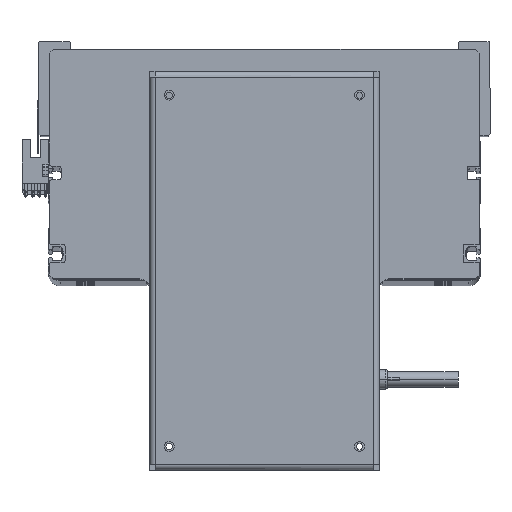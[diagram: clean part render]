
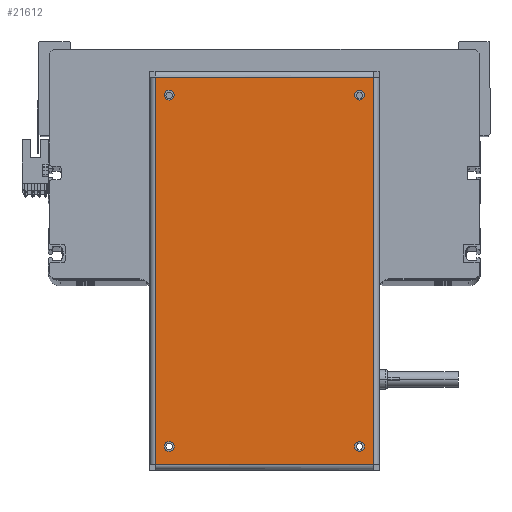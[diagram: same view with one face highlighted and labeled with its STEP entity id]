
A CAD part, top view. The second image highlights one B-rep face of the part: STEP entity #21612.
In plain terms, the highlighted planar face has unit normal (0, 0, 1).
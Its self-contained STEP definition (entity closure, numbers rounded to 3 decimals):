
#178 = ORIENTED_EDGE ( 'NONE', *, *, #24498, .F. ) ;
#366 = AXIS2_PLACEMENT_3D ( 'NONE', #13775, #3461, #36583 ) ;
#470 = CARTESIAN_POINT ( 'NONE',  ( 89.55, -48.5, 0. ) ) ;
#637 = AXIS2_PLACEMENT_3D ( 'NONE', #30506, #37453, #40730 ) ;
#678 = DIRECTION ( 'NONE',  ( 0., 1., 0. ) ) ;
#940 = VECTOR ( 'NONE', #22242, 1000. ) ;
#1008 = AXIS2_PLACEMENT_3D ( 'NONE', #12474, #21757, #15451 ) ;
#1162 = FACE_BOUND ( 'NONE', #27606, .T. ) ;
#1852 = ORIENTED_EDGE ( 'NONE', *, *, #25514, .F. ) ;
#2124 = VERTEX_POINT ( 'NONE', #15851 ) ;
#3304 = CARTESIAN_POINT ( 'NONE',  ( 92.05, 48.5, 0. ) ) ;
#3461 = DIRECTION ( 'NONE',  ( 0., 0., 1. ) ) ;
#3502 = CARTESIAN_POINT ( 'NONE',  ( -98.65, 55.6, 0. ) ) ;
#4228 = FACE_BOUND ( 'NONE', #25804, .T. ) ;
#4273 = CARTESIAN_POINT ( 'NONE',  ( -92.05, 48.5, 0. ) ) ;
#4379 = VERTEX_POINT ( 'NONE', #11235 ) ;
#4634 = CARTESIAN_POINT ( 'NONE',  ( -89.55, -48.5, 0. ) ) ;
#6359 = CARTESIAN_POINT ( 'NONE',  ( -89.55, 48.5, 0. ) ) ;
#6823 = VERTEX_POINT ( 'NONE', #10047 ) ;
#6844 = EDGE_CURVE ( 'NONE', #16360, #10850, #11214, .T. ) ;
#7323 = AXIS2_PLACEMENT_3D ( 'NONE', #4634, #21374, #24643 ) ;
#7562 = ORIENTED_EDGE ( 'NONE', *, *, #28426, .T. ) ;
#8343 = CIRCLE ( 'NONE', #14142, 2.5 ) ;
#8656 = LINE ( 'NONE', #34752, #16800 ) ;
#8834 = AXIS2_PLACEMENT_3D ( 'NONE', #24844, #37908, #15134 ) ;
#10047 = CARTESIAN_POINT ( 'NONE',  ( -87.05, -48.5, 0. ) ) ;
#10850 = VERTEX_POINT ( 'NONE', #3304 ) ;
#11214 = CIRCLE ( 'NONE', #38218, 2.5 ) ;
#11235 = CARTESIAN_POINT ( 'NONE',  ( -87.05, 48.5, 0. ) ) ;
#11760 = EDGE_CURVE ( 'NONE', #21344, #4379, #13192, .T. ) ;
#11821 = FACE_OUTER_BOUND ( 'NONE', #30718, .T. ) ;
#12474 = CARTESIAN_POINT ( 'NONE',  ( 89.55, -48.5, 0. ) ) ;
#12987 = VECTOR ( 'NONE', #678, 1000. ) ;
#13192 = CIRCLE ( 'NONE', #34430, 2.5 ) ;
#13319 = FACE_BOUND ( 'NONE', #40489, .T. ) ;
#13775 = CARTESIAN_POINT ( 'NONE',  ( 89.55, 48.5, 0. ) ) ;
#13789 = VERTEX_POINT ( 'NONE', #41457 ) ;
#13972 = CARTESIAN_POINT ( 'NONE',  ( 98.65, -55.6, 0. ) ) ;
#14142 = AXIS2_PLACEMENT_3D ( 'NONE', #6359, #29097, #32511 ) ;
#14159 = EDGE_CURVE ( 'NONE', #13789, #32589, #31836, .T. ) ;
#14226 = ORIENTED_EDGE ( 'NONE', *, *, #6844, .F. ) ;
#15134 = DIRECTION ( 'NONE',  ( -1., 0., 0. ) ) ;
#15451 = DIRECTION ( 'NONE',  ( 1., 0., 0. ) ) ;
#15851 = CARTESIAN_POINT ( 'NONE',  ( 87.05, -48.5, 0. ) ) ;
#16360 = VERTEX_POINT ( 'NONE', #36240 ) ;
#16505 = ORIENTED_EDGE ( 'NONE', *, *, #36498, .T. ) ;
#16800 = VECTOR ( 'NONE', #31628, 1000. ) ;
#16976 = VECTOR ( 'NONE', #32499, 1000. ) ;
#17005 = CARTESIAN_POINT ( 'NONE',  ( 89.55, 48.5, 0. ) ) ;
#17706 = VERTEX_POINT ( 'NONE', #32177 ) ;
#18940 = FACE_BOUND ( 'NONE', #26974, .T. ) ;
#19035 = CIRCLE ( 'NONE', #7323, 2.5 ) ;
#19893 = CARTESIAN_POINT ( 'NONE',  ( 92.05, -48.5, 0. ) ) ;
#20578 = DIRECTION ( 'NONE',  ( 0., 0., 1. ) ) ;
#20679 = DIRECTION ( 'NONE',  ( 1., 0., 0. ) ) ;
#21344 = VERTEX_POINT ( 'NONE', #4273 ) ;
#21374 = DIRECTION ( 'NONE',  ( 0., 0., 1. ) ) ;
#21612 = ADVANCED_FACE ( 'NONE', ( #18940, #4228, #1162, #13319, #11821 ), #37782, .F. ) ;
#21757 = DIRECTION ( 'NONE',  ( 0., 0., 1. ) ) ;
#21852 = ORIENTED_EDGE ( 'NONE', *, *, #23967, .F. ) ;
#22242 = DIRECTION ( 'NONE',  ( -1., 0., 0. ) ) ;
#22366 = AXIS2_PLACEMENT_3D ( 'NONE', #470, #32476, #29192 ) ;
#22910 = EDGE_CURVE ( 'NONE', #23042, #2124, #40720, .T. ) ;
#23042 = VERTEX_POINT ( 'NONE', #19893 ) ;
#23571 = EDGE_CURVE ( 'NONE', #4379, #21344, #8343, .T. ) ;
#23967 = EDGE_CURVE ( 'NONE', #2124, #23042, #28588, .T. ) ;
#24019 = ORIENTED_EDGE ( 'NONE', *, *, #25997, .T. ) ;
#24498 = EDGE_CURVE ( 'NONE', #6823, #17706, #31613, .T. ) ;
#24577 = CARTESIAN_POINT ( 'NONE',  ( -98.65, 55.6, 0. ) ) ;
#24643 = DIRECTION ( 'NONE',  ( 1., 0., 0. ) ) ;
#24844 = CARTESIAN_POINT ( 'NONE',  ( 98.75, 58.5, 0. ) ) ;
#25358 = CARTESIAN_POINT ( 'NONE',  ( 98.75, 55.6, 0. ) ) ;
#25361 = ORIENTED_EDGE ( 'NONE', *, *, #22910, .F. ) ;
#25514 = EDGE_CURVE ( 'NONE', #10850, #16360, #25886, .T. ) ;
#25804 = EDGE_LOOP ( 'NONE', ( #35967, #34563 ) ) ;
#25886 = CIRCLE ( 'NONE', #366, 2.5 ) ;
#25997 = EDGE_CURVE ( 'NONE', #32589, #38177, #36061, .T. ) ;
#26786 = VERTEX_POINT ( 'NONE', #31240 ) ;
#26974 = EDGE_LOOP ( 'NONE', ( #178, #39051 ) ) ;
#27066 = DIRECTION ( 'NONE',  ( 0., 0., 1. ) ) ;
#27606 = EDGE_LOOP ( 'NONE', ( #25361, #21852 ) ) ;
#28426 = EDGE_CURVE ( 'NONE', #38177, #26786, #41949, .T. ) ;
#28588 = CIRCLE ( 'NONE', #22366, 2.5 ) ;
#28627 = EDGE_CURVE ( 'NONE', #17706, #6823, #19035, .T. ) ;
#29097 = DIRECTION ( 'NONE',  ( 0., 0., 1. ) ) ;
#29192 = DIRECTION ( 'NONE',  ( 1., 0., 0. ) ) ;
#30506 = CARTESIAN_POINT ( 'NONE',  ( -89.55, -48.5, 0. ) ) ;
#30718 = EDGE_LOOP ( 'NONE', ( #7562, #16505, #37717, #24019 ) ) ;
#31240 = CARTESIAN_POINT ( 'NONE',  ( -98.65, -55.6, 0. ) ) ;
#31613 = CIRCLE ( 'NONE', #637, 2.5 ) ;
#31628 = DIRECTION ( 'NONE',  ( 1., 0., 0. ) ) ;
#31836 = LINE ( 'NONE', #13972, #12987 ) ;
#32159 = CARTESIAN_POINT ( 'NONE',  ( 98.65, 55.6, 0. ) ) ;
#32177 = CARTESIAN_POINT ( 'NONE',  ( -92.05, -48.5, 0. ) ) ;
#32476 = DIRECTION ( 'NONE',  ( 0., 0., 1. ) ) ;
#32499 = DIRECTION ( 'NONE',  ( 0., -1., 0. ) ) ;
#32511 = DIRECTION ( 'NONE',  ( 1., 0., 0. ) ) ;
#32589 = VERTEX_POINT ( 'NONE', #32159 ) ;
#33244 = DIRECTION ( 'NONE',  ( 1., 0., 0. ) ) ;
#34430 = AXIS2_PLACEMENT_3D ( 'NONE', #40299, #27066, #20679 ) ;
#34563 = ORIENTED_EDGE ( 'NONE', *, *, #11760, .F. ) ;
#34752 = CARTESIAN_POINT ( 'NONE',  ( -98.75, -55.6, 0. ) ) ;
#35967 = ORIENTED_EDGE ( 'NONE', *, *, #23571, .F. ) ;
#36061 = LINE ( 'NONE', #25358, #940 ) ;
#36240 = CARTESIAN_POINT ( 'NONE',  ( 87.05, 48.5, 0. ) ) ;
#36498 = EDGE_CURVE ( 'NONE', #26786, #13789, #8656, .T. ) ;
#36583 = DIRECTION ( 'NONE',  ( 1., 0., 0. ) ) ;
#37453 = DIRECTION ( 'NONE',  ( 0., 0., 1. ) ) ;
#37717 = ORIENTED_EDGE ( 'NONE', *, *, #14159, .T. ) ;
#37782 = PLANE ( 'NONE',  #8834 ) ;
#37908 = DIRECTION ( 'NONE',  ( 0., 0., -1. ) ) ;
#38177 = VERTEX_POINT ( 'NONE', #24577 ) ;
#38218 = AXIS2_PLACEMENT_3D ( 'NONE', #17005, #20578, #33244 ) ;
#39051 = ORIENTED_EDGE ( 'NONE', *, *, #28627, .F. ) ;
#40299 = CARTESIAN_POINT ( 'NONE',  ( -89.55, 48.5, 0. ) ) ;
#40489 = EDGE_LOOP ( 'NONE', ( #1852, #14226 ) ) ;
#40720 = CIRCLE ( 'NONE', #1008, 2.5 ) ;
#40730 = DIRECTION ( 'NONE',  ( 1., 0., 0. ) ) ;
#41457 = CARTESIAN_POINT ( 'NONE',  ( 98.65, -55.6, 0. ) ) ;
#41949 = LINE ( 'NONE', #3502, #16976 ) ;
